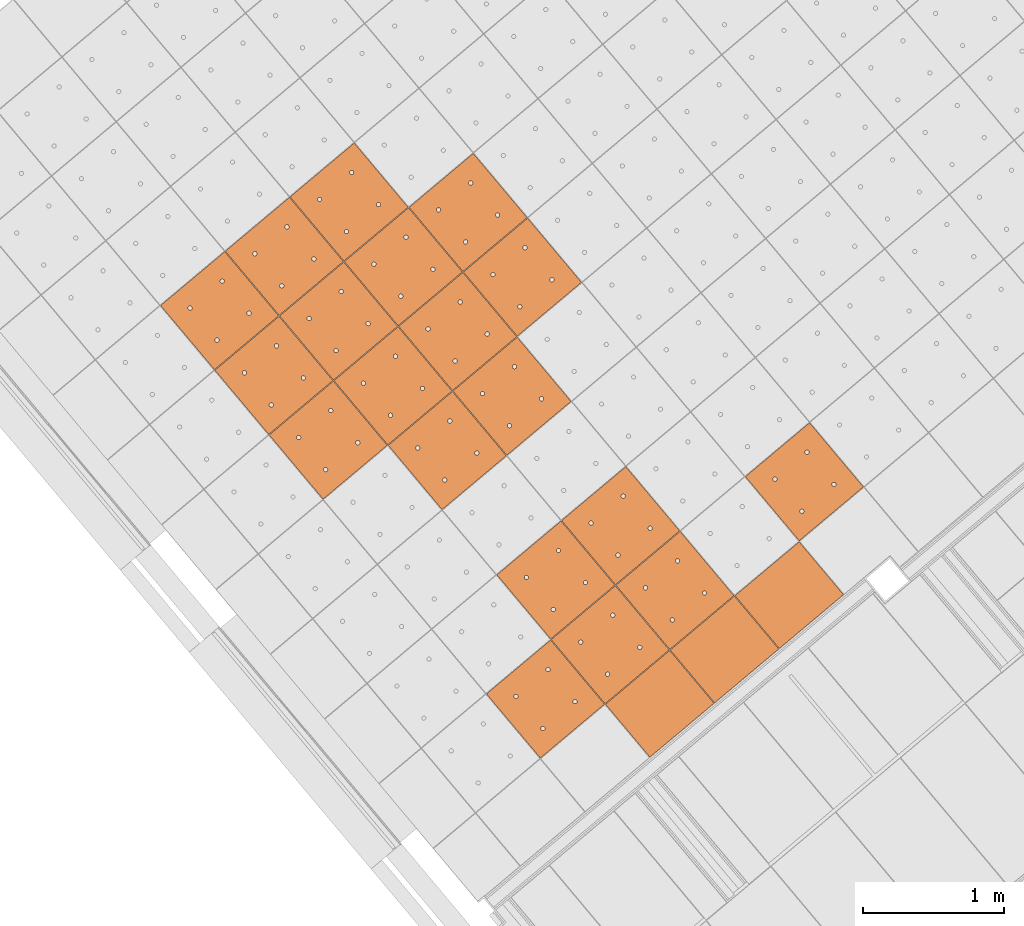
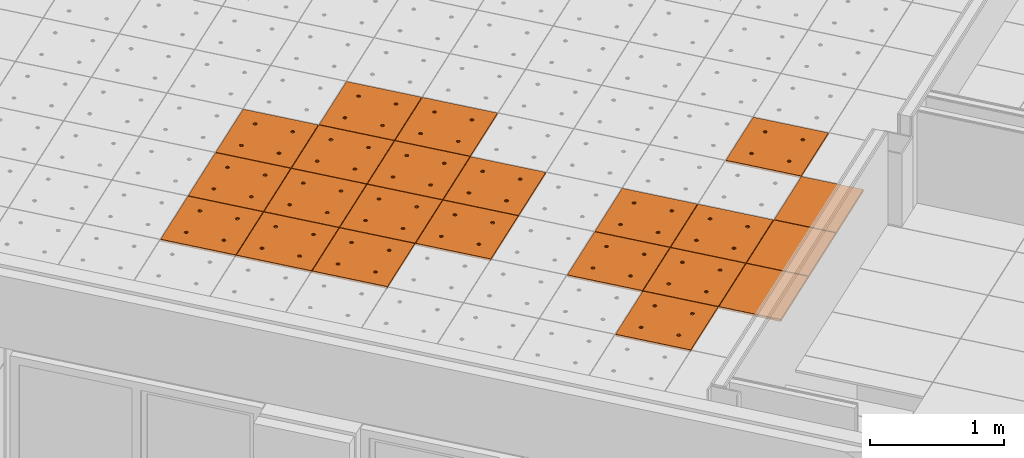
# One storey, part 142 of 338: 22 proxies, 1 element without a shape of its own.
"""IFC2X3 building model written with IfcOpenShell, lengths in millimetres."""

import ifcopenshell
import ifcopenshell.guid

model = None  # the IFC model being written
_history = None  # IfcOwnerHistory: only IFC2X3 demands one
_inside = {}  # id of a spatial element -> (the spatial element, [elements in it])
_under = {}  # id of a project, library or spatial element -> (it, [spatial elements below it])
_declared = {}  # id of a project -> (the project, [libraries it declares])
_typed = {}  # id of a type object -> (the type object, [elements of that type])
_made_of = {}  # id of a material, layer set ... -> (it, [elements and type objects made of it])


def new_model(schema):
    """Start an empty IFC model of exactly this schema.

    Asked for "IFC4X3", IfcOpenShell would pick the latest addendum, in which some entities
    have other attributes; the version numbers below select the first issue.
    IFC2X3 requires an IfcOwnerHistory on every rooted entity: one is made here for all.
    """
    global model, _history
    if schema == "IFC4X3":
        model = ifcopenshell.file(schema_version=(4, 3, 0, 0))
    else:
        model = ifcopenshell.file(schema=schema)
    _inside.clear()
    _under.clear()
    _declared.clear()
    _typed.clear()
    _made_of.clear()
    _history = None
    if model.schema == "IFC2X3":
        org = make("IfcOrganization", Name="unknown")
        user = make(
            "IfcPersonAndOrganization",
            ThePerson=make("IfcPerson", FamilyName="unknown"),
            TheOrganization=org,
        )
        app = make(
            "IfcApplication",
            ApplicationDeveloper=org,
            Version="unknown",
            ApplicationFullName="unknown",
            ApplicationIdentifier="unknown",
        )
        _history = make(
            "IfcOwnerHistory",
            OwningUser=user,
            OwningApplication=app,
            ChangeAction="ADDED",
            CreationDate=0,
        )
    return model


def make(cls, **values):
    """One entity of the class cls with the attributes given. An attribute that is None is left unset."""
    return model.create_entity(
        cls, **{name: value for name, value in values.items() if value is not None}
    )


def entity(cls, *values):
    """Any entity or typed value of the class cls, its attributes in the order of the schema. None: left unset."""
    e = model.create_entity(cls)
    for i, value in enumerate(values):
        if value is not None:
            e[i] = value
    return e


def rooted(cls, **values):
    """An entity with a GlobalId (a new one), such as an element, a storey or a relation."""
    return make(cls, GlobalId=ifcopenshell.guid.new(), OwnerHistory=_history, **values)


def si_unit(unit_type, name, prefix=None):
    """IfcSIUnit, for example si_unit("LENGTHUNIT", "METRE", prefix="MILLI")."""
    return make("IfcSIUnit", UnitType=unit_type, Prefix=prefix, Name=name)


def converted_unit(unit_type, name, factor, base, dimensions=None, offset=None):
    """IfcConversionBasedUnit, such as the inch: factor (a typed value) times the base unit."""
    return make(
        "IfcConversionBasedUnit"
        if offset is None
        else "IfcConversionBasedUnitWithOffset",
        ConversionOffset=offset,
        Dimensions=None
        if dimensions is None
        else entity("IfcDimensionalExponents", *dimensions),
        UnitType=unit_type,
        Name=name,
        ConversionFactor=make(
            "IfcMeasureWithUnit", ValueComponent=factor, UnitComponent=base
        ),
    )


def derived_unit(unit_type, elements):
    """IfcDerivedUnit: a product of units, each with its exponent."""
    return make(
        "IfcDerivedUnit",
        Elements=[
            make("IfcDerivedUnitElement", Unit=unit, Exponent=power)
            for unit, power in elements
        ],
        UnitType=unit_type,
    )


def money_unit(currency):
    """IfcMonetaryUnit."""
    return make("IfcMonetaryUnit", Currency=currency)


def assignment(units):
    """IfcUnitAssignment: the units of a project."""
    return None if units is None else make("IfcUnitAssignment", Units=units)


def point(xyz):
    """IfcCartesianPoint."""
    return None if xyz is None else make("IfcCartesianPoint", Coordinates=xyz)


def direction(xyz):
    """IfcDirection."""
    return None if xyz is None else make("IfcDirection", DirectionRatios=xyz)


def frame(location, z_axis=None, x_axis=None):
    """IfcAxis2Placement3D, a coordinate frame: its origin and axes. An axis left out is left unset."""
    return make(
        "IfcAxis2Placement3D",
        Location=point(location),
        Axis=direction(z_axis),
        RefDirection=direction(x_axis),
    )


def origin_with_axes():
    """The frame at (0, 0, 0) with the z axis (0, 0, 1) and the x axis (1, 0, 0) written out."""
    return frame((0.0, 0.0, 0.0), z_axis=(0.0, 0.0, 1.0), x_axis=(1.0, 0.0, 0.0))


def place(relative_to, where):
    """IfcLocalPlacement: puts the frame where relative to a parent placement (None: the world)."""
    return make(
        "IfcLocalPlacement", PlacementRelTo=relative_to, RelativePlacement=where
    )


def context(
    kind, dimensions, precision=None, world=None, true_north=None, identifier=None
):
    """IfcGeometricRepresentationContext, for example the 3D "Model" context."""
    return make(
        "IfcGeometricRepresentationContext",
        ContextIdentifier=identifier,
        ContextType=kind,
        CoordinateSpaceDimension=dimensions,
        Precision=precision,
        WorldCoordinateSystem=world,
        TrueNorth=true_north,
    )


def subcontext(parent, identifier, kind, view, scale=None):
    """IfcGeometricRepresentationSubContext, for example "Body" below "Model"."""
    return make(
        "IfcGeometricRepresentationSubContext",
        ContextIdentifier=identifier,
        ContextType=kind,
        ParentContext=parent,
        TargetScale=scale,
        TargetView=view,
    )


def project(units=None, contexts=None):
    """IfcProject with its units and contexts."""
    return rooted(
        "IfcProject",
        Name="project",
        RepresentationContexts=contexts,
        UnitsInContext=assignment(units),
    )


def spatial(cls, under=None, at=None, **own):
    """A site, building, storey or space (cls), placed at a placement, below another one or the project."""
    s = rooted(cls, ObjectPlacement=at, **own)
    if under is not None:
        _under.setdefault(under.id(), (under, []))[1].append(s)
    return s


def faces_of(points, faces, orient=None, outer=None):
    """IfcFace entities. A face is a list of loops; a loop is a list of indices into points, from 0.

    orient and outer hold one flag for each loop. By default every Orientation is true, the
    first loop of a face is its IfcFaceOuterBound and the others are IfcFaceBound.
    """
    made = []
    for i, loops in enumerate(faces):
        bounds = []
        for j, loop in enumerate(loops):
            is_outer = j == 0 if outer is None else outer[i][j]
            bounds.append(
                make(
                    "IfcFaceOuterBound" if is_outer else "IfcFaceBound",
                    Bound=make("IfcPolyLoop", Polygon=[points[k] for k in loop]),
                    Orientation=True if orient is None else orient[i][j],
                )
            )
        made.append(make("IfcFace", Bounds=bounds))
    return made


def faceted_brep(points, faces, orient=None, outer=None, voids=None):
    """IfcFacetedBrep: a solid bounded by flat faces; with voids (closed shells), ...WithVoids."""
    shared = [point(p) for p in points]
    hull = make("IfcClosedShell", CfsFaces=faces_of(shared, faces, orient, outer))
    if voids is None:
        return make("IfcFacetedBrep", Outer=hull)
    return make(
        "IfcFacetedBrepWithVoids",
        Outer=hull,
        Voids=[
            make(cls, CfsFaces=faces_of(shared, fs, o, b)) for cls, fs, o, b in voids
        ],
    )


def shape(context_of_items, identifier, shape_type, items):
    """IfcShapeRepresentation: the items that make up one representation, for example the "Body"."""
    return make(
        "IfcShapeRepresentation",
        ContextOfItems=context_of_items,
        RepresentationIdentifier=identifier,
        RepresentationType=shape_type,
        Items=items,
    )


def source(mapping_origin, context_of_items, identifier, shape_type, items):
    """IfcRepresentationMap: a shape defined once, which mapped items show again and again."""
    return make(
        "IfcRepresentationMap",
        MappingOrigin=mapping_origin,
        MappedRepresentation=shape(context_of_items, identifier, shape_type, items),
    )


def transform(
    local_origin,
    x_axis=None,
    y_axis=None,
    z_axis=None,
    scale=None,
    scale2=None,
    scale3=None,
    uniform=True,
):
    """IfcCartesianTransformationOperator3D, or its non-uniform kind. x_axis, y_axis, z_axis: its Axis1, 2, 3."""
    if uniform:
        return make(
            "IfcCartesianTransformationOperator3D",
            Axis1=direction(x_axis),
            Axis2=direction(y_axis),
            LocalOrigin=point(local_origin),
            Scale=scale,
            Axis3=direction(z_axis),
        )
    return make(
        "IfcCartesianTransformationOperator3DnonUniform",
        Axis1=direction(x_axis),
        Axis2=direction(y_axis),
        LocalOrigin=point(local_origin),
        Scale=scale,
        Axis3=direction(z_axis),
        Scale2=scale2,
        Scale3=scale3,
    )


def mapped(mapping_source, mapping_target):
    """IfcMappedItem: shows the shape of a source again, moved by a transform."""
    return make(
        "IfcMappedItem", MappingSource=mapping_source, MappingTarget=mapping_target
    )


def material(Name=None, Category=None):
    """IfcMaterial."""
    return make("IfcMaterial", Name=Name, Category=Category)


def made_of(thing, what):
    """Note that an element or type object is made of a material, layer set ...; save() writes the relation."""
    if what is not None:
        _made_of.setdefault(what.id(), (what, []))[1].append(thing)
    return thing


def type_object(cls, material=None, **own):
    """A type object (cls), such as IfcWallType, which elements share."""
    return made_of(rooted(cls, **own), material)


def type_shapes(of_type, sources):
    """Give a type object the sources (RepresentationMaps) that its elements show as mapped items."""
    of_type.RepresentationMaps = sources


def element(
    cls,
    number,
    at=None,
    inside=None,
    cuts=None,
    type_object=None,
    material=None,
    context=None,
    identifier="Body",
    shape_type=None,
    held_by="IfcProductDefinitionShape",
    body=None,
    shapes=None,
    **own,
):
    """One element of the class cls, such as IfcWall. Its Tag is "e" and its number.

    at: its placement. inside: the storey or other place that contains it. cuts: it is an
    opening in that element (IfcRelVoidsElement). A single representation is given by context,
    identifier, shape_type and body (its items); several are given by shapes. held_by: the class
    of the entity that holds the representations. save() writes the other relations.
    """
    e = rooted(cls, Tag="e%d" % number, ObjectPlacement=at, **own)
    if body is not None:
        shapes = [shape(context, identifier, shape_type, body)]
    if shapes is not None:
        e.Representation = make(held_by, Representations=shapes)
    if inside is not None:
        _inside.setdefault(inside.id(), (inside, []))[1].append(e)
    if cuts is not None:
        rooted(
            "IfcRelVoidsElement", RelatingBuildingElement=cuts, RelatedOpeningElement=e
        )
    if type_object is not None:
        _typed.setdefault(type_object.id(), (type_object, []))[1].append(e)
    return made_of(e, material)


def aggregate(whole, parts):
    """IfcRelAggregates: a whole, such as a stair, and the parts it consists of."""
    return rooted("IfcRelAggregates", RelatingObject=whole, RelatedObjects=parts)


def save(model, path):
    """Write the relations noted so far, then the file.

    IfcRelAggregates (storeys below a building ...), IfcRelContainedInSpatialStructure (elements
    in a storey), IfcRelDefinesByType, IfcRelAssociatesMaterial and IfcRelDeclares: one each for
    every whole, place, type object, material and project.
    """
    for whole, parts in _under.values():
        aggregate(whole, parts)
    for where, things in _inside.values():
        rooted(
            "IfcRelContainedInSpatialStructure",
            RelatedElements=things,
            RelatingStructure=where,
        )
    for kind, things in _typed.values():
        rooted("IfcRelDefinesByType", RelatedObjects=things, RelatingType=kind)
    for what, things in _made_of.values():
        rooted("IfcRelAssociatesMaterial", RelatedObjects=things, RelatingMaterial=what)
    for by, libraries in _declared.values():
        rooted("IfcRelDeclares", RelatingContext=by, RelatedDefinitions=libraries)
    model.write(path)


model = new_model("IFC2X3")

# Units and contexts
model_context = context("Model", 3, precision=0.01, world=origin_with_axes(), true_north=direction((0.0, 1.0)))
plan_context = context("Plan", 3, precision=0.01, world=origin_with_axes(), true_north=direction((0.0, 1.0)))
body_context = subcontext(model_context, "Body", "Model", "MODEL_VIEW")
ifc_project = project(units=[si_unit("LENGTHUNIT", "METRE", prefix="MILLI"), si_unit("AREAUNIT", "SQUARE_METRE"), si_unit("VOLUMEUNIT", "CUBIC_METRE"), converted_unit("PLANEANGLEUNIT", "DEGREE", entity("IfcPlaneAngleMeasure", 0.0174532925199), si_unit("PLANEANGLEUNIT", "RADIAN"), dimensions=[0, 0, 0, 0, 0, 0, 0]), money_unit("EUR"), converted_unit("TIMEUNIT", "Year", entity("IfcTimeMeasure", 31556926.0), si_unit("TIMEUNIT", "SECOND"), dimensions=[0, 0, 1, 0, 0, 0, 0]), si_unit("MASSUNIT", "GRAM", prefix="KILO"), si_unit("THERMODYNAMICTEMPERATUREUNIT", "DEGREE_CELSIUS"), si_unit("LUMINOUSINTENSITYUNIT", "LUMEN"), si_unit("ENERGYUNIT", "JOULE", prefix="MEGA"), derived_unit("THERMALCONDUCTANCEUNIT", [(si_unit("POWERUNIT", "WATT"), 1), (si_unit("LENGTHUNIT", "METRE"), -1), (si_unit("THERMODYNAMICTEMPERATUREUNIT", "KELVIN"), -1)]), derived_unit("SPECIFICHEATCAPACITYUNIT", [(si_unit("ENERGYUNIT", "JOULE"), 1), (si_unit("MASSUNIT", "GRAM", prefix="KILO"), -1), (si_unit("THERMODYNAMICTEMPERATUREUNIT", "KELVIN"), -1)]), derived_unit("MASSDENSITYUNIT", [(si_unit("MASSUNIT", "GRAM", prefix="KILO"), 1), (si_unit("VOLUMEUNIT", "CUBIC_METRE"), -1)])], contexts=[model_context, plan_context])

# Site, building, storey
site_placement = place(None, origin_with_axes())
site = spatial("IfcSite", under=ifc_project, at=site_placement, Name="Fortuinstraat Woensdrecht", CompositionType="ELEMENT")
building_placement = place(site_placement, origin_with_axes())
building = spatial("IfcBuilding", under=site, at=building_placement, Name="IKC Fortuna", CompositionType="ELEMENT")
storey_placement = place(building_placement, origin_with_axes())
storey = spatial("IfcBuildingStorey", under=building, at=storey_placement, Name="00 begane grond", CompositionType="ELEMENT", Elevation=0.0)

# Covering, proxies
covering_type = type_object("IfcCoveringType", Name="Curtain Wall Type", PredefinedType="CEILING")
covering_placement = place(storey_placement, frame((9775.85169731, -1002.28242867, 4660.0), z_axis=(0.0, 0.0, 1.0), x_axis=(1.0, 0.0, 0.0)))
covering = element("IfcCovering", 1, at=covering_placement, inside=storey, type_object=covering_type, Name="45_Plafondafwerking_P01", PredefinedType="CEILING")
ifc_material = material(Name="Gipsplaat")
building_element_proxy_type_1 = type_object("IfcBuildingElementProxyType", Name="Main Panel 600 x 600 x 20", PredefinedType="NOTDEFINED")
shared_shape_1 = source(origin_with_axes(), body_context, "Body", "Brep", [
    faceted_brep([(2.49999999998, 2.49999999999, -10.0), (300.0, 2.49999999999, -10.0), (300.0, 2.49999999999, 10.0), (2.49999999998, 2.49999999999, 10.0), (2.49999999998, 300.0, -10.0), (2.49999999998, 597.5, -10.0), (300.0, 597.5, -10.0), (597.5, 597.5, -10.0), (597.5, 300.0, -10.0), (597.5, 2.49999999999, -10.0), (166.25, 450.06232995, -10.0), (165.79423259, 452.64711538, -10.0), (164.896546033, 455.11348892, -10.0), (163.58421608, 457.38651108, -10.0), (161.897117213, 459.39711721, -10.0), (159.886511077, 461.08421608, -10.0), (157.613488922, 462.39654603, -10.0), (155.147115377, 463.29423259, -10.0), (152.562329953, 463.75, -10.0), (149.937670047, 463.75, -10.0), (147.352884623, 463.29423259, -10.0), (144.886511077, 462.39654603, -10.0), (142.613488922, 461.08421608, -10.0), (140.602882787, 459.39711721, -10.0), (138.91578392, 457.38651108, -10.0), (137.603453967, 455.11348892, -10.0), (136.705767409, 452.64711538, -10.0), (136.25, 450.06232995, -10.0), (136.25, 448.75, -10.0), (136.25, 447.43767005, -10.0), (136.705767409, 444.85288462, -10.0), (137.603453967, 442.38651108, -10.0), (138.91578392, 440.11348892, -10.0), (140.602882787, 438.10288279, -10.0), (142.613488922, 436.41578392, -10.0), (144.886511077, 435.10345397, -10.0), (147.352884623, 434.20576741, -10.0), (149.937670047, 433.75, -10.0), (152.562329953, 433.75, -10.0), (155.147115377, 434.20576741, -10.0), (157.613488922, 435.10345397, -10.0), (159.886511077, 436.41578392, -10.0), (161.897117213, 438.10288279, -10.0), (163.58421608, 440.11348892, -10.0), (164.896546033, 442.38651108, -10.0), (165.79423259, 444.85288462, -10.0), (166.25, 447.43767005, -10.0), (463.75, 450.06232995, -10.0), (463.29423259, 452.64711538, -10.0), (462.396546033, 455.11348892, -10.0), (461.08421608, 457.38651108, -10.0), (459.397117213, 459.39711721, -10.0), (457.386511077, 461.08421608, -10.0), (455.113488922, 462.39654603, -10.0), (452.647115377, 463.29423259, -10.0), (450.062329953, 463.75, -10.0), (447.437670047, 463.75, -10.0), (444.852884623, 463.29423259, -10.0), (442.386511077, 462.39654603, -10.0), (440.113488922, 461.08421608, -10.0), (438.102882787, 459.39711721, -10.0), (436.41578392, 457.38651108, -10.0), (435.103453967, 455.11348892, -10.0), (434.205767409, 452.64711538, -10.0), (433.75, 450.06232995, -10.0), (433.75, 448.75, -10.0), (433.75, 447.43767005, -10.0), (434.205767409, 444.85288462, -10.0), (435.103453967, 442.38651108, -10.0), (436.41578392, 440.11348892, -10.0), (438.102882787, 438.10288279, -10.0), (440.113488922, 436.41578392, -10.0), (442.386511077, 435.10345397, -10.0), (444.852884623, 434.20576741, -10.0), (447.437670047, 433.75, -10.0), (450.062329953, 433.75, -10.0), (452.647115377, 434.20576741, -10.0), (455.113488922, 435.10345397, -10.0), (457.386511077, 436.41578392, -10.0), (459.397117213, 438.10288279, -10.0), (461.08421608, 440.11348892, -10.0), (462.396546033, 442.38651108, -10.0), (463.29423259, 444.85288462, -10.0), (463.75, 447.43767005, -10.0), (463.75, 152.56232995, -10.0), (463.29423259, 155.14711538, -10.0), (462.396546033, 157.61348892, -10.0), (461.08421608, 159.88651108, -10.0), (459.397117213, 161.89711721, -10.0), (457.386511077, 163.58421608, -10.0), (455.113488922, 164.89654603, -10.0), (452.647115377, 165.79423259, -10.0), (450.062329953, 166.25, -10.0), (447.437670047, 166.25, -10.0), (444.852884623, 165.79423259, -10.0), (442.386511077, 164.89654603, -10.0), (440.113488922, 163.58421608, -10.0), (438.102882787, 161.89711721, -10.0), (436.41578392, 159.88651108, -10.0), (435.103453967, 157.61348892, -10.0), (434.205767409, 155.14711538, -10.0), (433.75, 152.56232995, -10.0), (433.75, 151.25, -10.0), (433.75, 149.93767005, -10.0), (434.205767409, 147.35288462, -10.0), (435.103453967, 144.88651108, -10.0), (436.41578392, 142.61348892, -10.0), (438.102882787, 140.60288279, -10.0), (440.113488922, 138.91578392, -10.0), (442.386511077, 137.60345397, -10.0), (444.852884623, 136.70576741, -10.0), (447.437670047, 136.25, -10.0), (450.062329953, 136.25, -10.0), (452.647115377, 136.70576741, -10.0), (455.113488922, 137.60345397, -10.0), (457.386511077, 138.91578392, -10.0), (459.397117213, 140.60288279, -10.0), (461.08421608, 142.61348892, -10.0), (462.396546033, 144.88651108, -10.0), (463.29423259, 147.35288462, -10.0), (463.75, 149.93767005, -10.0), (166.25, 152.56232995, -10.0), (165.79423259, 155.14711538, -10.0), (164.896546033, 157.61348892, -10.0), (163.58421608, 159.88651108, -10.0), (161.897117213, 161.89711721, -10.0), (159.886511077, 163.58421608, -10.0), (157.613488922, 164.89654603, -10.0), (155.147115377, 165.79423259, -10.0), (152.562329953, 166.25, -10.0), (149.937670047, 166.25, -10.0), (147.352884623, 165.79423259, -10.0), (144.886511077, 164.89654603, -10.0), (142.613488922, 163.58421608, -10.0), (140.602882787, 161.89711721, -10.0), (138.91578392, 159.88651108, -10.0), (137.603453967, 157.61348892, -10.0), (136.705767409, 155.14711538, -10.0), (136.25, 152.56232995, -10.0), (136.25, 151.25, -10.0), (136.25, 149.93767005, -10.0), (136.705767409, 147.35288462, -10.0), (137.603453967, 144.88651108, -10.0), (138.91578392, 142.61348892, -10.0), (140.602882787, 140.60288279, -10.0), (142.613488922, 138.91578392, -10.0), (144.886511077, 137.60345397, -10.0), (147.352884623, 136.70576741, -10.0), (149.937670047, 136.25, -10.0), (152.562329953, 136.25, -10.0), (155.147115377, 136.70576741, -10.0), (157.613488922, 137.60345397, -10.0), (159.886511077, 138.91578392, -10.0), (161.897117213, 140.60288279, -10.0), (163.58421608, 142.61348892, -10.0), (164.896546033, 144.88651108, -10.0), (165.79423259, 147.35288462, -10.0), (166.25, 149.93767005, -10.0), (597.5, 2.49999999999, 10.0), (597.5, 300.0, 10.0), (597.5, 597.5, 10.0), (300.0, 597.5, 10.0), (2.49999999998, 597.5, 10.0), (2.49999999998, 300.0, 10.0), (166.25, 450.06232995, 10.0), (166.25, 447.43767005, 10.0), (165.79423259, 444.85288462, 10.0), (164.896546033, 442.38651108, 10.0), (163.58421608, 440.11348892, 10.0), (161.897117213, 438.10288279, 10.0), (159.886511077, 436.41578392, 10.0), (157.613488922, 435.10345397, 10.0), (155.147115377, 434.20576741, 10.0), (152.562329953, 433.75, 10.0), (149.937670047, 433.75, 10.0), (147.352884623, 434.20576741, 10.0), (144.886511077, 435.10345397, 10.0), (142.613488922, 436.41578392, 10.0), (140.602882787, 438.10288279, 10.0), (138.91578392, 440.11348892, 10.0), (137.603453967, 442.38651108, 10.0), (136.705767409, 444.85288462, 10.0), (136.25, 447.43767005, 10.0), (136.25, 448.75, 10.0), (136.25, 450.06232995, 10.0), (136.705767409, 452.64711538, 10.0), (137.603453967, 455.11348892, 10.0), (138.91578392, 457.38651108, 10.0), (140.602882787, 459.39711721, 10.0), (142.613488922, 461.08421608, 10.0), (144.886511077, 462.39654603, 10.0), (147.352884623, 463.29423259, 10.0), (149.937670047, 463.75, 10.0), (152.562329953, 463.75, 10.0), (155.147115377, 463.29423259, 10.0), (157.613488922, 462.39654603, 10.0), (159.886511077, 461.08421608, 10.0), (161.897117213, 459.39711721, 10.0), (163.58421608, 457.38651108, 10.0), (164.896546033, 455.11348892, 10.0), (165.79423259, 452.64711538, 10.0), (463.75, 450.06232995, 10.0), (463.75, 447.43767005, 10.0), (463.29423259, 444.85288462, 10.0), (462.396546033, 442.38651108, 10.0), (461.08421608, 440.11348892, 10.0), (459.397117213, 438.10288279, 10.0), (457.386511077, 436.41578392, 10.0), (455.113488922, 435.10345397, 10.0), (452.647115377, 434.20576741, 10.0), (450.062329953, 433.75, 10.0), (447.437670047, 433.75, 10.0), (444.852884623, 434.20576741, 10.0), (442.386511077, 435.10345397, 10.0), (440.113488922, 436.41578392, 10.0), (438.102882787, 438.10288279, 10.0), (436.41578392, 440.11348892, 10.0), (435.103453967, 442.38651108, 10.0), (434.205767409, 444.85288462, 10.0), (433.75, 447.43767005, 10.0), (433.75, 448.75, 10.0), (433.75, 450.06232995, 10.0), (434.205767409, 452.64711538, 10.0), (435.103453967, 455.11348892, 10.0), (436.41578392, 457.38651108, 10.0), (438.102882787, 459.39711721, 10.0), (440.113488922, 461.08421608, 10.0), (442.386511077, 462.39654603, 10.0), (444.852884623, 463.29423259, 10.0), (447.437670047, 463.75, 10.0), (450.062329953, 463.75, 10.0), (452.647115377, 463.29423259, 10.0), (455.113488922, 462.39654603, 10.0), (457.386511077, 461.08421608, 10.0), (459.397117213, 459.39711721, 10.0), (461.08421608, 457.38651108, 10.0), (462.396546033, 455.11348892, 10.0), (463.29423259, 452.64711538, 10.0), (463.75, 152.56232995, 10.0), (463.75, 149.93767005, 10.0), (463.29423259, 147.35288462, 10.0), (462.396546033, 144.88651108, 10.0), (461.08421608, 142.61348892, 10.0), (459.397117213, 140.60288279, 10.0), (457.386511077, 138.91578392, 10.0), (455.113488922, 137.60345397, 10.0), (452.647115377, 136.70576741, 10.0), (450.062329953, 136.25, 10.0), (447.437670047, 136.25, 10.0), (444.852884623, 136.70576741, 10.0), (442.386511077, 137.60345397, 10.0), (440.113488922, 138.91578392, 10.0), (438.102882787, 140.60288279, 10.0), (436.41578392, 142.61348892, 10.0), (435.103453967, 144.88651108, 10.0), (434.205767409, 147.35288462, 10.0), (433.75, 149.93767005, 10.0), (433.75, 151.25, 10.0), (433.75, 152.56232995, 10.0), (434.205767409, 155.14711538, 10.0), (435.103453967, 157.61348892, 10.0), (436.41578392, 159.88651108, 10.0), (438.102882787, 161.89711721, 10.0), (440.113488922, 163.58421608, 10.0), (442.386511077, 164.89654603, 10.0), (444.852884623, 165.79423259, 10.0), (447.437670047, 166.25, 10.0), (450.062329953, 166.25, 10.0), (452.647115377, 165.79423259, 10.0), (455.113488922, 164.89654603, 10.0), (457.386511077, 163.58421608, 10.0), (459.397117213, 161.89711721, 10.0), (461.08421608, 159.88651108, 10.0), (462.396546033, 157.61348892, 10.0), (463.29423259, 155.14711538, 10.0), (166.25, 152.56232995, 10.0), (166.25, 149.93767005, 10.0), (165.79423259, 147.35288462, 10.0), (164.896546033, 144.88651108, 10.0), (163.58421608, 142.61348892, 10.0), (161.897117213, 140.60288279, 10.0), (159.886511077, 138.91578392, 10.0), (157.613488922, 137.60345397, 10.0), (155.147115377, 136.70576741, 10.0), (152.562329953, 136.25, 10.0), (149.937670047, 136.25, 10.0), (147.352884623, 136.70576741, 10.0), (144.886511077, 137.60345397, 10.0), (142.613488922, 138.91578392, 10.0), (140.602882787, 140.60288279, 10.0), (138.91578392, 142.61348892, 10.0), (137.603453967, 144.88651108, 10.0), (136.705767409, 147.35288462, 10.0), (136.25, 149.93767005, 10.0), (136.25, 151.25, 10.0), (136.25, 152.56232995, 10.0), (136.705767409, 155.14711538, 10.0), (137.603453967, 157.61348892, 10.0), (138.91578392, 159.88651108, 10.0), (140.602882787, 161.89711721, 10.0), (142.613488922, 163.58421608, 10.0), (144.886511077, 164.89654603, 10.0), (147.352884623, 165.79423259, 10.0), (149.937670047, 166.25, 10.0), (152.562329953, 166.25, 10.0), (155.147115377, 165.79423259, 10.0), (157.613488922, 164.89654603, 10.0), (159.886511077, 163.58421608, 10.0), (161.897117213, 161.89711721, 10.0), (163.58421608, 159.88651108, 10.0), (164.896546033, 157.61348892, 10.0), (165.79423259, 155.14711538, 10.0)], [[[0, 1, 2, 3]], [[0, 4, 5, 6, 7, 8, 9, 1], [10, 11, 12, 13, 14, 15, 16, 17, 18, 19, 20, 21, 22, 23, 24, 25, 26, 27, 28, 29, 30, 31, 32, 33, 34, 35, 36, 37, 38, 39, 40, 41, 42, 43, 44, 45, 46], [47, 48, 49, 50, 51, 52, 53, 54, 55, 56, 57, 58, 59, 60, 61, 62, 63, 64, 65, 66, 67, 68, 69, 70, 71, 72, 73, 74, 75, 76, 77, 78, 79, 80, 81, 82, 83], [84, 85, 86, 87, 88, 89, 90, 91, 92, 93, 94, 95, 96, 97, 98, 99, 100, 101, 102, 103, 104, 105, 106, 107, 108, 109, 110, 111, 112, 113, 114, 115, 116, 117, 118, 119, 120], [121, 122, 123, 124, 125, 126, 127, 128, 129, 130, 131, 132, 133, 134, 135, 136, 137, 138, 139, 140, 141, 142, 143, 144, 145, 146, 147, 148, 149, 150, 151, 152, 153, 154, 155, 156, 157]], [[1, 9, 158, 2]], [[3, 2, 158, 159, 160, 161, 162, 163], [164, 165, 166, 167, 168, 169, 170, 171, 172, 173, 174, 175, 176, 177, 178, 179, 180, 181, 182, 183, 184, 185, 186, 187, 188, 189, 190, 191, 192, 193, 194, 195, 196, 197, 198, 199, 200], [201, 202, 203, 204, 205, 206, 207, 208, 209, 210, 211, 212, 213, 214, 215, 216, 217, 218, 219, 220, 221, 222, 223, 224, 225, 226, 227, 228, 229, 230, 231, 232, 233, 234, 235, 236, 237], [238, 239, 240, 241, 242, 243, 244, 245, 246, 247, 248, 249, 250, 251, 252, 253, 254, 255, 256, 257, 258, 259, 260, 261, 262, 263, 264, 265, 266, 267, 268, 269, 270, 271, 272, 273, 274], [275, 276, 277, 278, 279, 280, 281, 282, 283, 284, 285, 286, 287, 288, 289, 290, 291, 292, 293, 294, 295, 296, 297, 298, 299, 300, 301, 302, 303, 304, 305, 306, 307, 308, 309, 310, 311]], [[4, 0, 3, 163]], [[5, 4, 163, 162]], [[6, 5, 162, 161]], [[7, 6, 161, 160]], [[8, 7, 160, 159]], [[9, 8, 159, 158]], [[11, 10, 164, 200]], [[12, 11, 200, 199]], [[13, 12, 199, 198]], [[14, 13, 198, 197]], [[15, 14, 197, 196]], [[16, 15, 196, 195]], [[17, 16, 195, 194]], [[18, 17, 194, 193]], [[19, 18, 193, 192]], [[20, 19, 192, 191]], [[21, 20, 191, 190]], [[22, 21, 190, 189]], [[23, 22, 189, 188]], [[24, 23, 188, 187]], [[25, 24, 187, 186]], [[26, 25, 186, 185]], [[27, 26, 185, 184]], [[28, 27, 184, 183]], [[29, 28, 183, 182]], [[30, 29, 182, 181]], [[31, 30, 181, 180]], [[32, 31, 180, 179]], [[33, 32, 179, 178]], [[34, 33, 178, 177]], [[35, 34, 177, 176]], [[36, 35, 176, 175]], [[37, 36, 175, 174]], [[38, 37, 174, 173]], [[39, 38, 173, 172]], [[40, 39, 172, 171]], [[41, 40, 171, 170]], [[42, 41, 170, 169]], [[43, 42, 169, 168]], [[44, 43, 168, 167]], [[45, 44, 167, 166]], [[46, 45, 166, 165]], [[10, 46, 165, 164]], [[48, 47, 201, 237]], [[49, 48, 237, 236]], [[50, 49, 236, 235]], [[51, 50, 235, 234]], [[52, 51, 234, 233]], [[53, 52, 233, 232]], [[54, 53, 232, 231]], [[55, 54, 231, 230]], [[56, 55, 230, 229]], [[57, 56, 229, 228]], [[58, 57, 228, 227]], [[59, 58, 227, 226]], [[60, 59, 226, 225]], [[61, 60, 225, 224]], [[62, 61, 224, 223]], [[63, 62, 223, 222]], [[64, 63, 222, 221]], [[65, 64, 221, 220]], [[66, 65, 220, 219]], [[67, 66, 219, 218]], [[68, 67, 218, 217]], [[69, 68, 217, 216]], [[70, 69, 216, 215]], [[71, 70, 215, 214]], [[72, 71, 214, 213]], [[73, 72, 213, 212]], [[74, 73, 212, 211]], [[75, 74, 211, 210]], [[76, 75, 210, 209]], [[77, 76, 209, 208]], [[78, 77, 208, 207]], [[79, 78, 207, 206]], [[80, 79, 206, 205]], [[81, 80, 205, 204]], [[82, 81, 204, 203]], [[83, 82, 203, 202]], [[47, 83, 202, 201]], [[85, 84, 238, 274]], [[86, 85, 274, 273]], [[87, 86, 273, 272]], [[88, 87, 272, 271]], [[89, 88, 271, 270]], [[90, 89, 270, 269]], [[91, 90, 269, 268]], [[92, 91, 268, 267]], [[93, 92, 267, 266]], [[94, 93, 266, 265]], [[95, 94, 265, 264]], [[96, 95, 264, 263]], [[97, 96, 263, 262]], [[98, 97, 262, 261]], [[99, 98, 261, 260]], [[100, 99, 260, 259]], [[101, 100, 259, 258]], [[102, 101, 258, 257]], [[103, 102, 257, 256]], [[104, 103, 256, 255]], [[105, 104, 255, 254]], [[106, 105, 254, 253]], [[107, 106, 253, 252]], [[108, 107, 252, 251]], [[109, 108, 251, 250]], [[110, 109, 250, 249]], [[111, 110, 249, 248]], [[112, 111, 248, 247]], [[113, 112, 247, 246]], [[114, 113, 246, 245]], [[115, 114, 245, 244]], [[116, 115, 244, 243]], [[117, 116, 243, 242]], [[118, 117, 242, 241]], [[119, 118, 241, 240]], [[120, 119, 240, 239]], [[84, 120, 239, 238]], [[122, 121, 275, 311]], [[123, 122, 311, 310]], [[124, 123, 310, 309]], [[125, 124, 309, 308]], [[126, 125, 308, 307]], [[127, 126, 307, 306]], [[128, 127, 306, 305]], [[129, 128, 305, 304]], [[130, 129, 304, 303]], [[131, 130, 303, 302]], [[132, 131, 302, 301]], [[133, 132, 301, 300]], [[134, 133, 300, 299]], [[135, 134, 299, 298]], [[136, 135, 298, 297]], [[137, 136, 297, 296]], [[138, 137, 296, 295]], [[139, 138, 295, 294]], [[140, 139, 294, 293]], [[141, 140, 293, 292]], [[142, 141, 292, 291]], [[143, 142, 291, 290]], [[144, 143, 290, 289]], [[145, 144, 289, 288]], [[146, 145, 288, 287]], [[147, 146, 287, 286]], [[148, 147, 286, 285]], [[149, 148, 285, 284]], [[150, 149, 284, 283]], [[151, 150, 283, 282]], [[152, 151, 282, 281]], [[153, 152, 281, 280]], [[154, 153, 280, 279]], [[155, 154, 279, 278]], [[156, 155, 278, 277]], [[157, 156, 277, 276]], [[121, 157, 276, 275]]]),
])
type_shapes(building_element_proxy_type_1, [shared_shape_1])
proxy_1_placement = place(covering_placement, frame((-4448.35792307, -2166.12830688, 1.7674750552e-10), z_axis=(0.0, 0.0, 1.0), x_axis=(1.0, 0.0, 0.0)))
proxy_1 = element("IfcBuildingElementProxy", 2, at=proxy_1_placement, type_object=building_element_proxy_type_1, material=ifc_material, Name="__600x601 Rockfon Krios", context=body_context, shape_type="MappedRepresentation", body=[
    mapped(shared_shape_1, transform((36.9769427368, 422.649625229, 0.0), x_axis=(-0.766044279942, -0.642787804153, 0.0), y_axis=(0.642787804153, -0.766044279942, 0.0), z_axis=(0.0, 0.0, 1.0))),
])
proxy_2_placement = place(covering_placement, frame((-5219.70328806, -1246.87517095, 1.7674750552e-10), z_axis=(0.0, 0.0, 1.0), x_axis=(1.0, 0.0, 0.0)))
proxy_2 = element("IfcBuildingElementProxy", 3, at=proxy_2_placement, type_object=building_element_proxy_type_1, material=ifc_material, Name="__600x614 Rockfon Krios", context=body_context, shape_type="MappedRepresentation", body=[
    mapped(shared_shape_1, transform((36.9769427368, 422.649625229, 0.0), x_axis=(-0.766044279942, -0.642787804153, 0.0), y_axis=(0.642787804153, -0.766044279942, 0.0), z_axis=(0.0, 0.0, 1.0))),
])
proxy_3_placement = place(covering_placement, frame((-5605.37597055, -787.248602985, 1.7674750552e-10), z_axis=(0.0, 0.0, 1.0), x_axis=(1.0, 0.0, 0.0)))
proxy_3 = element("IfcBuildingElementProxy", 4, at=proxy_3_placement, type_object=building_element_proxy_type_1, material=ifc_material, Name="__600x634 Rockfon Krios", context=body_context, shape_type="MappedRepresentation", body=[
    mapped(shared_shape_1, transform((36.9769427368, 422.649625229, 0.0), x_axis=(-0.766044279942, -0.642787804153, 0.0), y_axis=(0.642787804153, -0.766044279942, 0.0), z_axis=(0.0, 0.0, 1.0))),
])
proxy_4_placement = place(covering_placement, frame((-5991.04865304, -327.62203502, 1.7674750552e-10), z_axis=(0.0, 0.0, 1.0), x_axis=(1.0, 0.0, 0.0)))
proxy_4 = element("IfcBuildingElementProxy", 5, at=proxy_4_placement, type_object=building_element_proxy_type_1, material=ifc_material, Name="__600x654 Rockfon Krios", context=body_context, shape_type="MappedRepresentation", body=[
    mapped(shared_shape_1, transform((36.9769427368, 422.649625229, 0.0), x_axis=(-0.766044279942, -0.642787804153, 0.0), y_axis=(0.642787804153, -0.766044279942, 0.0), z_axis=(0.0, 0.0, 1.0))),
])
proxy_5_placement = place(covering_placement, frame((-6376.72133553, 132.004532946, 1.7674750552e-10), z_axis=(0.0, 0.0, 1.0), x_axis=(1.0, 0.0, 0.0)))
proxy_5 = element("IfcBuildingElementProxy", 6, at=proxy_5_placement, type_object=building_element_proxy_type_1, material=ifc_material, Name="__600x656 Rockfon Krios", context=body_context, shape_type="MappedRepresentation", body=[
    mapped(shared_shape_1, transform((36.9769427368, 422.649625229, 0.0), x_axis=(-0.766044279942, -0.642787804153, 0.0), y_axis=(0.642787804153, -0.766044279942, 0.0), z_axis=(0.0, 0.0, 1.0))),
])
proxy_6_placement = place(covering_placement, frame((-3603.05867262, -2240.08219235, 1.57207580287e-10), z_axis=(0.0, 0.0, 1.0), x_axis=(1.0, 0.0, 0.0)))
proxy_6 = element("IfcBuildingElementProxy", 7, at=proxy_6_placement, type_object=building_element_proxy_type_1, material=ifc_material, Name="__600x665 Rockfon Krios", context=body_context, shape_type="MappedRepresentation", body=[
    mapped(shared_shape_1, transform((36.9769427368, 422.649625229, 0.0), x_axis=(-0.766044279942, -0.642787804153, 0.0), y_axis=(0.642787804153, -0.766044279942, 0.0), z_axis=(0.0, 0.0, 1.0))),
])
proxy_7_placement = place(covering_placement, frame((-3988.73135511, -1780.45562439, 1.57207580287e-10), z_axis=(0.0, 0.0, 1.0), x_axis=(1.0, 0.0, 0.0)))
proxy_7 = element("IfcBuildingElementProxy", 8, at=proxy_7_placement, type_object=building_element_proxy_type_1, material=ifc_material, Name="__600x667 Rockfon Krios", context=body_context, shape_type="MappedRepresentation", body=[
    mapped(shared_shape_1, transform((36.9769427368, 422.649625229, 0.0), x_axis=(-0.766044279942, -0.642787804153, 0.0), y_axis=(0.642787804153, -0.766044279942, 0.0), z_axis=(0.0, 0.0, 1.0))),
])
proxy_8_placement = place(covering_placement, frame((-4760.07672009, -861.202488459, 1.57207580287e-10), z_axis=(0.0, 0.0, 1.0), x_axis=(1.0, 0.0, 0.0)))
proxy_8 = element("IfcBuildingElementProxy", 9, at=proxy_8_placement, type_object=building_element_proxy_type_1, material=ifc_material, Name="__600x669 Rockfon Krios", context=body_context, shape_type="MappedRepresentation", body=[
    mapped(shared_shape_1, transform((36.9769427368, 422.649625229, 0.0), x_axis=(-0.766044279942, -0.642787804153, 0.0), y_axis=(0.642787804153, -0.766044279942, 0.0), z_axis=(0.0, 0.0, 1.0))),
])
proxy_9_placement = place(covering_placement, frame((-4522.31180855, -3011.42755734, 1.96287430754e-10), z_axis=(0.0, 0.0, 1.0), x_axis=(1.0, 0.0, 0.0)))
proxy_9 = element("IfcBuildingElementProxy", 10, at=proxy_9_placement, type_object=building_element_proxy_type_1, material=ifc_material, Name="__600x678 Rockfon Krios", context=body_context, shape_type="MappedRepresentation", body=[
    mapped(shared_shape_1, transform((36.9769427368, 422.649625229, 0.0), x_axis=(-0.766044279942, -0.642787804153, 0.0), y_axis=(0.642787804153, -0.766044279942, 0.0), z_axis=(0.0, 0.0, 1.0))),
])
proxy_10_placement = place(covering_placement, frame((-6065.00253851, -1172.92128548, 1.96287430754e-10), z_axis=(0.0, 0.0, 1.0), x_axis=(1.0, 0.0, 0.0)))
proxy_10 = element("IfcBuildingElementProxy", 11, at=proxy_10_placement, type_object=building_element_proxy_type_1, material=ifc_material, Name="__600x684 Rockfon Krios", context=body_context, shape_type="MappedRepresentation", body=[
    mapped(shared_shape_1, transform((36.9769427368, 422.649625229, 0.0), x_axis=(-0.766044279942, -0.642787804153, 0.0), y_axis=(0.642787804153, -0.766044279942, 0.0), z_axis=(0.0, 0.0, 1.0))),
])
proxy_11_placement = place(covering_placement, frame((-6450.67522101, -713.294717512, 1.96287430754e-10), z_axis=(0.0, 0.0, 1.0), x_axis=(1.0, 0.0, 0.0)))
proxy_11 = element("IfcBuildingElementProxy", 12, at=proxy_11_placement, type_object=building_element_proxy_type_1, material=ifc_material, Name="__600x685 Rockfon Krios", context=body_context, shape_type="MappedRepresentation", body=[
    mapped(shared_shape_1, transform((36.9769427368, 422.649625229, 0.0), x_axis=(-0.766044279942, -0.642787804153, 0.0), y_axis=(0.642787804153, -0.766044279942, 0.0), z_axis=(0.0, 0.0, 1.0))),
])
proxy_12_placement = place(covering_placement, frame((-6836.3479035, -253.668149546, 1.96287430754e-10), z_axis=(0.0, 0.0, 1.0), x_axis=(1.0, 0.0, 0.0)))
proxy_12 = element("IfcBuildingElementProxy", 13, at=proxy_12_placement, type_object=building_element_proxy_type_1, material=ifc_material, Name="__600x686 Rockfon Krios", context=body_context, shape_type="MappedRepresentation", body=[
    mapped(shared_shape_1, transform((36.9769427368, 422.649625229, 0.0), x_axis=(-0.766044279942, -0.642787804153, 0.0), y_axis=(0.642787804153, -0.766044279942, 0.0), z_axis=(0.0, 0.0, 1.0))),
])
proxy_13_placement = place(covering_placement, frame((-4062.68524058, -2625.75487485, 1.7674750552e-10), z_axis=(0.0, 0.0, 1.0), x_axis=(1.0, 0.0, 0.0)))
proxy_13 = element("IfcBuildingElementProxy", 14, at=proxy_13_placement, type_object=building_element_proxy_type_1, material=ifc_material, Name="__600x689 Rockfon Krios", context=body_context, shape_type="MappedRepresentation", body=[
    mapped(shared_shape_1, transform((36.9769427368, 422.649625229, 0.0), x_axis=(-0.766044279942, -0.642787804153, 0.0), y_axis=(0.642787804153, -0.766044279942, 0.0), z_axis=(0.0, 0.0, 1.0))),
])
proxy_14_placement = place(covering_placement, frame((-5145.74940258, -401.575920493, 1.57207580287e-10), z_axis=(0.0, 0.0, 1.0), x_axis=(1.0, 0.0, 0.0)))
proxy_14 = element("IfcBuildingElementProxy", 15, at=proxy_14_placement, type_object=building_element_proxy_type_1, material=ifc_material, Name="__600x699 Rockfon Krios", context=body_context, shape_type="MappedRepresentation", body=[
    mapped(shared_shape_1, transform((36.9769427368, 422.649625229, 0.0), x_axis=(-0.766044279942, -0.642787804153, 0.0), y_axis=(0.642787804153, -0.766044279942, 0.0), z_axis=(0.0, 0.0, 1.0))),
])
proxy_15_placement = place(covering_placement, frame((-2683.80553669, -1468.73682737, 1.1812772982e-10), z_axis=(0.0, 0.0, 1.0), x_axis=(1.0, 0.0, 0.0)))
proxy_15 = element("IfcBuildingElementProxy", 16, at=proxy_15_placement, type_object=building_element_proxy_type_1, material=ifc_material, Name="__600x742 Rockfon Krios", context=body_context, shape_type="MappedRepresentation", body=[
    mapped(shared_shape_1, transform((36.9769427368, 422.649625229, 0.0), x_axis=(-0.766044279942, -0.642787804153, 0.0), y_axis=(0.642787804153, -0.766044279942, 0.0), z_axis=(0.0, 0.0, 1.0))),
])
proxy_16_placement = place(covering_placement, frame((-5071.79551711, 443.723329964, 1.37667655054e-10), z_axis=(0.0, 0.0, 1.0), x_axis=(1.0, 0.0, 0.0)))
proxy_16 = element("IfcBuildingElementProxy", 17, at=proxy_16_placement, type_object=building_element_proxy_type_1, material=ifc_material, Name="__600x746 Rockfon Krios", context=body_context, shape_type="MappedRepresentation", body=[
    mapped(shared_shape_1, transform((36.9769427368, 422.649625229, 0.0), x_axis=(-0.766044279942, -0.642787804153, 0.0), y_axis=(0.642787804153, -0.766044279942, 0.0), z_axis=(0.0, 0.0, 1.0))),
])
proxy_17_placement = place(covering_placement, frame((-4686.12283462, -15.9032380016, 1.37667655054e-10), z_axis=(0.0, 0.0, 1.0), x_axis=(1.0, 0.0, 0.0)))
proxy_17 = element("IfcBuildingElementProxy", 18, at=proxy_17_placement, type_object=building_element_proxy_type_1, material=ifc_material, Name="__600x747 Rockfon Krios", context=body_context, shape_type="MappedRepresentation", body=[
    mapped(shared_shape_1, transform((36.9769427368, 422.649625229, 0.0), x_axis=(-0.766044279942, -0.642787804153, 0.0), y_axis=(0.642787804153, -0.766044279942, 0.0), z_axis=(0.0, 0.0, 1.0))),
])
proxy_18_placement = place(covering_placement, frame((-5917.09476757, 517.677215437, 1.57207580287e-10), z_axis=(0.0, 0.0, 1.0), x_axis=(1.0, 0.0, 0.0)))
proxy_18 = element("IfcBuildingElementProxy", 19, at=proxy_18_placement, type_object=building_element_proxy_type_1, material=ifc_material, Name="__600x754 Rockfon Krios", context=body_context, shape_type="MappedRepresentation", body=[
    mapped(shared_shape_1, transform((36.9769427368, 422.649625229, 0.0), x_axis=(-0.766044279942, -0.642787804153, 0.0), y_axis=(0.642787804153, -0.766044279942, 0.0), z_axis=(0.0, 0.0, 1.0))),
])
proxy_19_placement = place(covering_placement, frame((-5531.42208508, 58.050647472, 1.57207580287e-10), z_axis=(0.0, 0.0, 1.0), x_axis=(1.0, 0.0, 0.0)))
proxy_19 = element("IfcBuildingElementProxy", 20, at=proxy_19_placement, type_object=building_element_proxy_type_1, material=ifc_material, Name="__600x755 Rockfon Krios", context=body_context, shape_type="MappedRepresentation", body=[
    mapped(shared_shape_1, transform((36.9769427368, 422.649625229, 0.0), x_axis=(-0.766044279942, -0.642787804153, 0.0), y_axis=(0.642787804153, -0.766044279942, 0.0), z_axis=(0.0, 0.0, 1.0))),
])
building_element_proxy_type_2 = type_object("IfcBuildingElementProxyType", Name="600 x 495 x 20", PredefinedType="NOTDEFINED")
shared_shape_2 = source(origin_with_axes(), body_context, "Body", "Brep", [
    faceted_brep([(2.49999828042, 2.49999271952, -10.0), (597.500011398, 2.50000259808, -10.0), (597.500011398, 2.50000259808, 10.0), (2.49999828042, 2.49999271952, 10.0), (2.49999628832, 492.591328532, -10.0), (597.500001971, 492.59132955, -10.0), (597.500001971, 492.59132955, 10.0), (2.49999628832, 492.591328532, 10.0)], [[[0, 1, 2, 3]], [[0, 4, 5, 1]], [[1, 5, 6, 2]], [[3, 2, 6, 7]], [[4, 0, 3, 7]], [[5, 4, 7, 6]]]),
])
type_shapes(building_element_proxy_type_2, [shared_shape_2])
proxy_20_placement = place(covering_placement, frame((-3251.10299951, -2659.52641397, 1.57207580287e-10), z_axis=(0.0, 0.0, 1.0), x_axis=(1.0, 0.0, 0.0)))
proxy_20 = element("IfcBuildingElementProxy", 21, at=proxy_20_placement, type_object=building_element_proxy_type_2, material=ifc_material, Name="__600x675 Rockfon Krios", context=body_context, shape_type="MappedRepresentation", body=[
    mapped(shared_shape_2, transform((70.6939521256, 382.467278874, 0.0), x_axis=(-0.766044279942, -0.642787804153, 0.0), y_axis=(0.642787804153, -0.766044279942, 0.0), z_axis=(0.0, 0.0, 1.0))),
])
proxy_21_placement = place(covering_placement, frame((-2791.47643155, -2273.85373147, 1.37667655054e-10), z_axis=(0.0, 0.0, 1.0), x_axis=(1.0, 0.0, 0.0)))
proxy_21 = element("IfcBuildingElementProxy", 22, at=proxy_21_placement, type_object=building_element_proxy_type_2, material=ifc_material, Name="__600x698 Rockfon Krios", context=body_context, shape_type="MappedRepresentation", body=[
    mapped(shared_shape_2, transform((70.6939521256, 382.467278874, 0.0), x_axis=(-0.766044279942, -0.642787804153, 0.0), y_axis=(0.642787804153, -0.766044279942, 0.0), z_axis=(0.0, 0.0, 1.0))),
])
proxy_22_placement = place(covering_placement, frame((-3710.72956748, -3045.19909646, 1.7674750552e-10), z_axis=(0.0, 0.0, 1.0), x_axis=(1.0, 0.0, 0.0)))
proxy_22 = element("IfcBuildingElementProxy", 23, at=proxy_22_placement, type_object=building_element_proxy_type_2, material=ifc_material, Name="__600x734 Rockfon Krios", context=body_context, shape_type="MappedRepresentation", body=[
    mapped(shared_shape_2, transform((70.6939521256, 382.467278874, 0.0), x_axis=(-0.766044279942, -0.642787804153, 0.0), y_axis=(0.642787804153, -0.766044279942, 0.0), z_axis=(0.0, 0.0, 1.0))),
])
aggregate(covering, [proxy_1, proxy_2, proxy_3, proxy_4, proxy_5, proxy_6, proxy_7, proxy_8, proxy_20, proxy_9, proxy_10, proxy_11, proxy_12, proxy_13, proxy_21, proxy_14, proxy_22, proxy_15, proxy_16, proxy_17, proxy_18, proxy_19])

save(model, "model.ifc")
